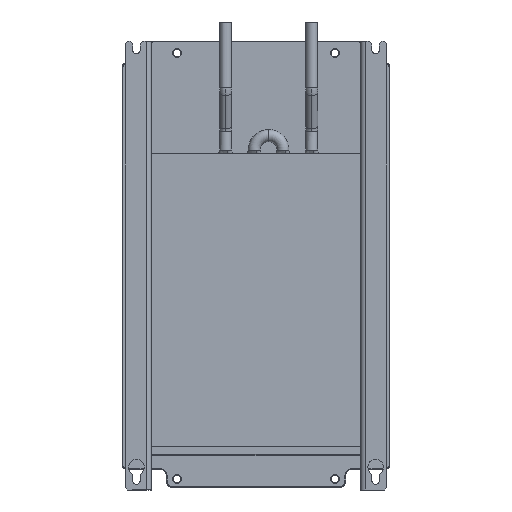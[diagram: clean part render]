
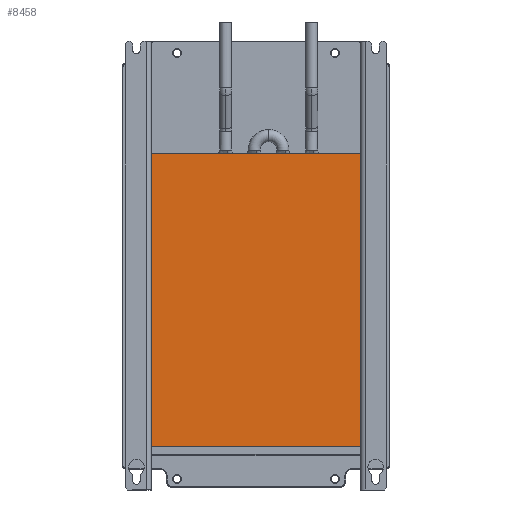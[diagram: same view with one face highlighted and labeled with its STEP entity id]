
A CAD part, front view. The second image highlights one B-rep face of the part: STEP entity #8458.
In plain terms, the highlighted planar face has unit normal (0, -1, 0).
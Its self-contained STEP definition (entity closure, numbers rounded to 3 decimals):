
#1381 = CARTESIAN_POINT ( 'NONE',  ( 93.5, -21., 94. ) ) ;
#5690 = VERTEX_POINT ( 'NONE', #72579 ) ;
#7394 = CARTESIAN_POINT ( 'NONE',  ( 93.5, -21., -151. ) ) ;
#7864 = EDGE_CURVE ( 'NONE', #40036, #49178, #40164, .T. ) ;
#8458 = ADVANCED_FACE ( 'NONE', ( #72127 ), #81267, .F. ) ;
#8579 = ORIENTED_EDGE ( 'NONE', *, *, #37374, .F. ) ;
#10418 = CARTESIAN_POINT ( 'NONE',  ( 93.5, -21., -151. ) ) ;
#14520 = CARTESIAN_POINT ( 'NONE',  ( -85.5, -21., 280.507 ) ) ;
#15041 = DIRECTION ( 'NONE',  ( 0., 0., -1. ) ) ;
#24762 = EDGE_LOOP ( 'NONE', ( #68725, #57526, #88802, #8579 ) ) ;
#26702 = DIRECTION ( 'NONE',  ( 1., 0., 0. ) ) ;
#27886 = VECTOR ( 'NONE', #93193, 1000. ) ;
#29805 = LINE ( 'NONE', #14520, #58528 ) ;
#35783 = CARTESIAN_POINT ( 'NONE',  ( -85.5, -21., -151. ) ) ;
#37021 = CARTESIAN_POINT ( 'NONE',  ( 89.5, -21., 94. ) ) ;
#37374 = EDGE_CURVE ( 'NONE', #40036, #5690, #59381, .T. ) ;
#37635 = VECTOR ( 'NONE', #39007, 1000. ) ;
#39007 = DIRECTION ( 'NONE',  ( -1., 0., 0. ) ) ;
#40036 = VERTEX_POINT ( 'NONE', #37021 ) ;
#40164 = LINE ( 'NONE', #1381, #27886 ) ;
#42511 = DIRECTION ( 'NONE',  ( 0., 1., 0. ) ) ;
#45900 = AXIS2_PLACEMENT_3D ( 'NONE', #10418, #42511, #26702 ) ;
#45932 = EDGE_CURVE ( 'NONE', #5690, #73466, #70097, .T. ) ;
#49178 = VERTEX_POINT ( 'NONE', #95628 ) ;
#50859 = VECTOR ( 'NONE', #59876, 1000. ) ;
#57526 = ORIENTED_EDGE ( 'NONE', *, *, #92115, .T. ) ;
#58528 = VECTOR ( 'NONE', #15041, 1000. ) ;
#59381 = LINE ( 'NONE', #66516, #50859 ) ;
#59876 = DIRECTION ( 'NONE',  ( 0., 0., -1. ) ) ;
#66516 = CARTESIAN_POINT ( 'NONE',  ( 89.5, -21., 280.507 ) ) ;
#68725 = ORIENTED_EDGE ( 'NONE', *, *, #7864, .T. ) ;
#70097 = LINE ( 'NONE', #7394, #37635 ) ;
#72127 = FACE_OUTER_BOUND ( 'NONE', #24762, .T. ) ;
#72579 = CARTESIAN_POINT ( 'NONE',  ( 89.5, -21., -151. ) ) ;
#73466 = VERTEX_POINT ( 'NONE', #35783 ) ;
#81267 = PLANE ( 'NONE',  #45900 ) ;
#88802 = ORIENTED_EDGE ( 'NONE', *, *, #45932, .F. ) ;
#92115 = EDGE_CURVE ( 'NONE', #49178, #73466, #29805, .T. ) ;
#93193 = DIRECTION ( 'NONE',  ( -1., 0., 0. ) ) ;
#95628 = CARTESIAN_POINT ( 'NONE',  ( -85.5, -21., 94. ) ) ;
